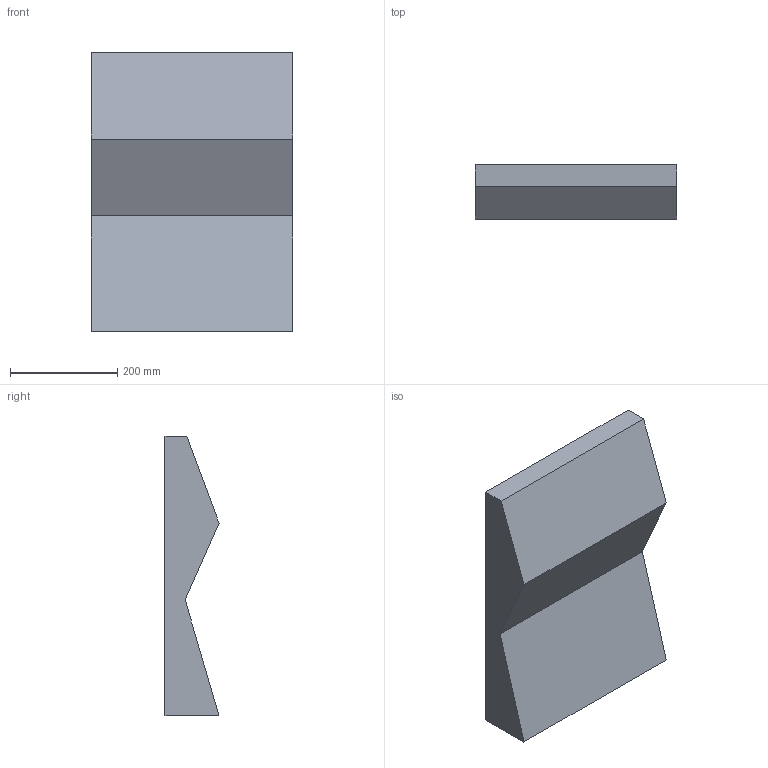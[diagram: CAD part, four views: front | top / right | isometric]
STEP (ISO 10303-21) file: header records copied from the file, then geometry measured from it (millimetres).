
FILE_DESCRIPTION(/* description */ (''),/* implementation_level */ '2;1');
FILE_NAME(/* name */ 'Sculpt Wall Art Mini Face',/* time_stamp */ '2021-01-26T12:42:51+01:00',/* author */ (''),/* organization */ (''),/* preprocessor_version */ 'ST-DEVELOPER v15',/* originating_system */ '',/* authorisation */ '');
FILE_SCHEMA (('AUTOMOTIVE_DESIGN'));
Length unit declared in the file: millimetre
Products named in the file (1): Document
Bounding box: 375 x 100.63 x 519.95 mm (x, y, z)
Volume: 13565683.7 mm3; surface area: 527694 mm2
Topology: 1 solids, 1 shells, 8 faces, 18 edges, 12 vertices
Faces by surface type: plane 6, bspline 2
Entity records: 217 total; most frequent: CARTESIAN_POINT 64, ORIENTED_EDGE 36, EDGE_CURVE 18, B_SPLINE_CURVE_WITH_KNOTS 18, VERTEX_POINT 12, DIRECTION 10, ADVANCED_FACE 8, FACE_OUTER_BOUND 8
